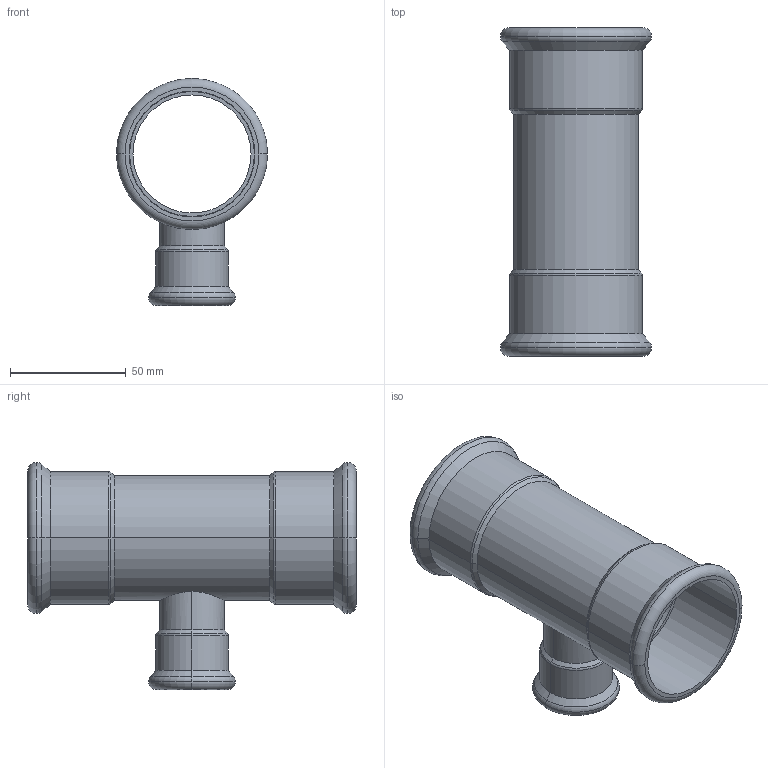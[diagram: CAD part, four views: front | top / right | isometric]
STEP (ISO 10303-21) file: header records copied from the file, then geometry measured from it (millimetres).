
FILE_DESCRIPTION(('CoCreate Modeling STEP Export'),'2;1');
FILE_NAME('C1415 54x28x54.stp','2014-11-12T10:45:57',(''),(''),'CoCreate Modeling STEP processor for AP214 (Solid Model)','CoCreate Modeling 17.00A 17-Jun-2010 (C) Parametric Technology GmbH','');
FILE_SCHEMA(('AUTOMOTIVE_DESIGN { 1 0 10303 214 1 1 1 1 }'));
Length unit declared in the file: millimetre
Products named in the file (2): C1415_54x28x54
Assembly tree (1 placements, depth 2):
  C1415_54x28x54
    C1415_54x28x54
Bounding box: 65.3 x 142 x 98.15 mm (x, y, z)
Volume: 54480.1 mm3; surface area: 59599.7 mm2
Topology: 1 solids, 1 shells, 66 faces, 135 edges, 79 vertices
Faces by surface type: cylinder 27, torus 18, cone 12, plane 9
Entity records: 2625 total; most frequent: CARTESIAN_POINT 1394, ORIENTED_EDGE 270, DIRECTION 220, EDGE_CURVE 135, AXIS2_PLACEMENT_3D 91, VERTEX_POINT 79, EDGE_LOOP 76, FACE_OUTER_BOUND 66
